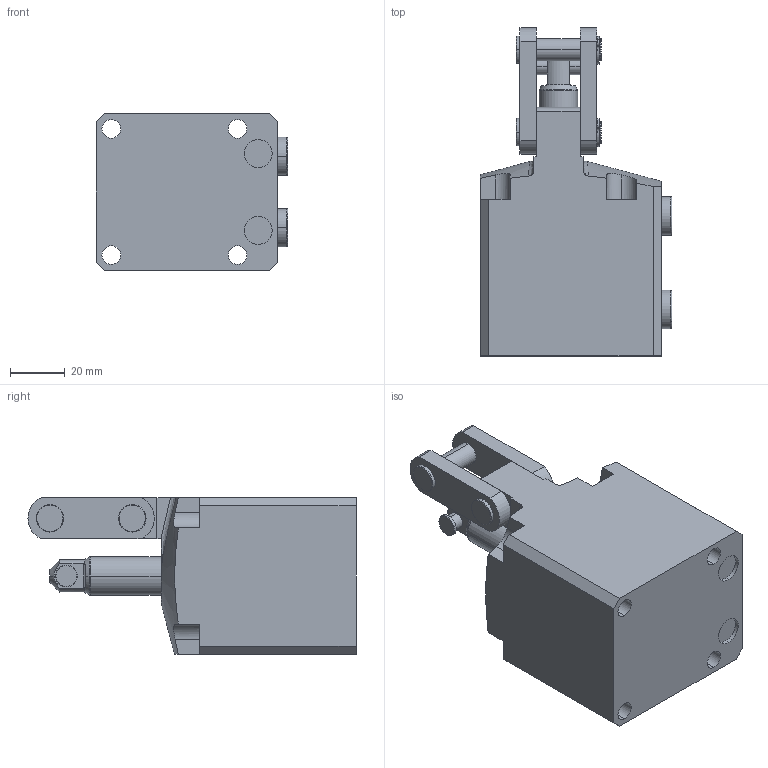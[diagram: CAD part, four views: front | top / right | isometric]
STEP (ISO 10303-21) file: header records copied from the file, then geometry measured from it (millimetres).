
FILE_DESCRIPTION(/* description */ (''),/* implementation_level */ '2;1');
FILE_NAME(/* name */ 'BPC06-L.stp',/* time_stamp */ '2025-01-05T10:02:45+08:00',/* author */ (''),/* organization */ (''),/* preprocessor_version */ 'ST-DEVELOPER v16.7',/* originating_system */ 'SIEMENS PLM Software NX 12.0',/* authorisation */ '');
FILE_SCHEMA (('AUTOMOTIVE_DESIGN { 1 0 10303 214 3 1 1 1 }'));
Length unit declared in the file: millimetre
Products named in the file (5): BPC06-L-04; BPC06-L-02; BPC06-L-01; BPC06-L-03; BPC06-L_stp
Assembly tree (5 placements, depth 2):
  BPC06-L_stp
    BPC06-L-03
    BPC06-L-01
    BPC06-L-02
    BPC06-L-04  x2
Bounding box: 69.8 x 119.5 x 57 mm (x, y, z)
Volume: 256739.8 mm3; surface area: 40094.2 mm2
Topology: 5 solids, 5 shells, 275 faces, 688 edges, 443 vertices
Faces by surface type: plane 120, cylinder 113, torus 22, cone 18, bspline 2
Entity records: 8091 total; most frequent: CARTESIAN_POINT 1691, DIRECTION 1371, ORIENTED_EDGE 1284, EDGE_CURVE 642, AXIS2_PLACEMENT_3D 519, VERTEX_POINT 415, LINE 333, VECTOR 333
